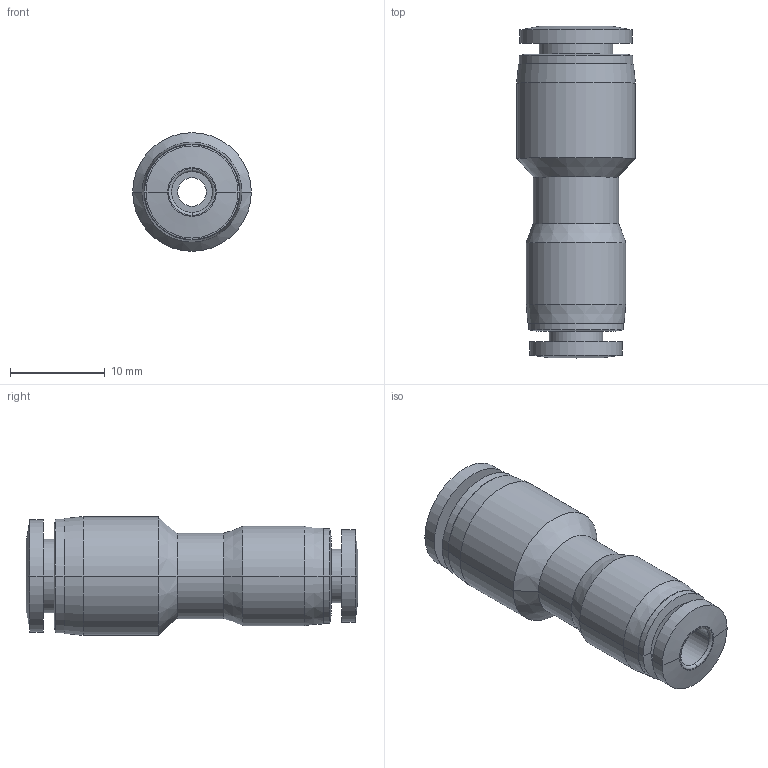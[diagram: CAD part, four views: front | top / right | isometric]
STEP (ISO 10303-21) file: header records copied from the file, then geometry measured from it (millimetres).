
FILE_DESCRIPTION (( 'STEP AP203' ), '1' );
FILE_NAME ('FRH06-04.STEP', '2020-05-12T14:59:40', ( '' ), ( '' ), 'SwSTEP 2.0', 'SolidWorks 2019', '' );
FILE_SCHEMA (( 'CONFIG_CONTROL_DESIGN' ));
Length unit declared in the file: millimetre
Products named in the file (1): FRH06-04
Bounding box: 12.5 x 34.95 x 12.5 mm (x, y, z)
Volume: 2388.4 mm3; surface area: 2121.4 mm2
Topology: 1 solids, 1 shells, 54 faces, 112 edges, 68 vertices
Faces by surface type: cylinder 24, cone 16, plane 10, torus 4
Entity records: 1529 total; most frequent: DIRECTION 294, CARTESIAN_POINT 235, ORIENTED_EDGE 224, AXIS2_PLACEMENT_3D 127, EDGE_CURVE 112, CIRCLE 72, VERTEX_POINT 68, EDGE_LOOP 64
